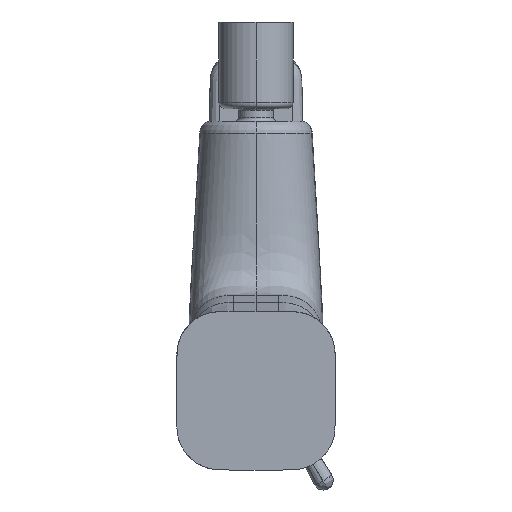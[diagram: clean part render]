
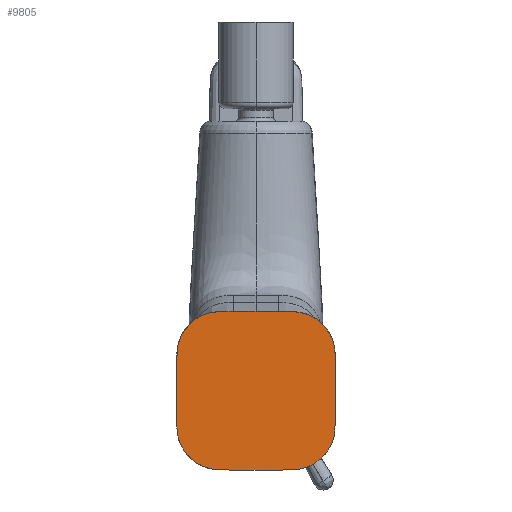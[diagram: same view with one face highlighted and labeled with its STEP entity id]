
A CAD part, front view. The second image highlights one B-rep face of the part: STEP entity #9805.
In plain terms, the highlighted planar face has unit normal (0, -1, 0).
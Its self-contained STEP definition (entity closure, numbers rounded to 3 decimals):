
#2083=CARTESIAN_POINT('',(-25.613,3.756,9.781));
#2084=CARTESIAN_POINT('',(-25.603,3.756,10.722));
#2085=CARTESIAN_POINT('',(-25.592,3.756,12.135));
#2086=CARTESIAN_POINT('',(-25.397,3.756,14.009));
#2087=CARTESIAN_POINT('',(-25.116,3.756,15.396));
#2088=CARTESIAN_POINT('',(-24.681,3.756,16.741));
#2089=CARTESIAN_POINT('',(-23.898,3.756,18.456));
#2090=CARTESIAN_POINT('',(-22.582,3.756,20.422));
#2091=CARTESIAN_POINT('',(-20.597,3.756,22.445));
#2092=CARTESIAN_POINT('',(-18.654,3.756,23.795));
#2093=CARTESIAN_POINT('',(-16.952,3.756,24.606));
#2094=CARTESIAN_POINT('',(-15.615,3.756,25.066));
#2095=CARTESIAN_POINT('',(-14.235,3.756,25.373));
#2096=CARTESIAN_POINT('',(-12.364,3.756,25.602));
#2097=CARTESIAN_POINT('',(-10.009,3.756,25.638));
#2098=CARTESIAN_POINT('',(-6.245,3.756,25.667));
#2099=CARTESIAN_POINT('',(-2.908,3.756,25.683));
#2100=CARTESIAN_POINT('',(-0.513,3.756,
25.684));
#2101=CARTESIAN_POINT('',(0.,3.756,25.684));
#2103=CARTESIAN_POINT('',(0.,3.756,25.684));
#2104=CARTESIAN_POINT('',(0.513,3.756,25.684));
#2105=CARTESIAN_POINT('',(2.908,3.756,25.683));
#2106=CARTESIAN_POINT('',(6.245,3.756,25.667));
#2107=CARTESIAN_POINT('',(10.009,3.756,25.638));
#2108=CARTESIAN_POINT('',(12.364,3.756,25.602));
#2109=CARTESIAN_POINT('',(14.235,3.756,25.373));
#2110=CARTESIAN_POINT('',(15.615,3.756,25.066));
#2111=CARTESIAN_POINT('',(16.952,3.756,24.606));
#2112=CARTESIAN_POINT('',(18.654,3.756,23.795));
#2113=CARTESIAN_POINT('',(20.597,3.756,22.445));
#2114=CARTESIAN_POINT('',(22.582,3.756,20.422));
#2115=CARTESIAN_POINT('',(23.898,3.756,18.456));
#2116=CARTESIAN_POINT('',(24.681,3.756,16.741));
#2117=CARTESIAN_POINT('',(25.116,3.756,15.396));
#2118=CARTESIAN_POINT('',(25.397,3.756,14.009));
#2119=CARTESIAN_POINT('',(25.592,3.756,12.135));
#2120=CARTESIAN_POINT('',(25.603,3.756,10.722));
#2121=CARTESIAN_POINT('',(25.613,3.756,9.781));
#2123=CARTESIAN_POINT('',(25.613,3.756,9.781));
#2124=CARTESIAN_POINT('',(25.631,3.756,7.899));
#2125=CARTESIAN_POINT('',(25.657,3.756,4.133));
#2126=CARTESIAN_POINT('',(25.665,3.756,-1.514));
#2127=CARTESIAN_POINT('',(25.645,3.756,-6.136));
#2128=CARTESIAN_POINT('',(25.621,3.756,-8.96));
#2129=CARTESIAN_POINT('',(25.607,3.756,-10.372));
#2130=CARTESIAN_POINT('',(25.593,3.756,-11.397));
#2131=CARTESIAN_POINT('',(25.525,3.756,-12.808));
#2132=CARTESIAN_POINT('',(25.357,3.756,-14.212));
#2133=CARTESIAN_POINT('',(25.05,3.756,-15.592));
#2134=CARTESIAN_POINT('',(24.587,3.756,-16.928));
#2135=CARTESIAN_POINT('',(23.77,3.756,-18.627));
#2136=CARTESIAN_POINT('',(22.42,3.756,-20.569));
#2137=CARTESIAN_POINT('',(20.402,3.756,-22.56));
#2138=CARTESIAN_POINT('',(18.435,3.756,-23.875));
#2139=CARTESIAN_POINT('',(16.717,3.756,-24.652));
#2140=CARTESIAN_POINT('',(15.371,3.756,-25.084));
#2141=CARTESIAN_POINT('',(13.985,3.756,-25.366));
#2142=CARTESIAN_POINT('',(12.58,3.756,-25.516));
#2143=CARTESIAN_POINT('',(11.404,3.756,-25.565));
#2144=CARTESIAN_POINT('',(10.463,3.756,-25.582));
#2145=CARTESIAN_POINT('',(9.992,3.756,-25.587));
#2146=CARTESIAN_POINT('',(9.757,3.756,-25.589));
#2148=CARTESIAN_POINT('',(-0.004,3.756,
975.921));
#2149=DIRECTION('',(0.,1.,0.));
#2150=DIRECTION('',(0.01,0.,-1.));
#2151=AXIS2_PLACEMENT_3D('',#2148,#2149,#2150);
#2153=CARTESIAN_POINT('',(0.004,3.756,975.921));
#2154=DIRECTION('',(0.,1.,0.));
#2155=DIRECTION('',(0.,0.,-1.));
#2156=AXIS2_PLACEMENT_3D('',#2153,#2154,#2155);
#2158=CARTESIAN_POINT('',(-9.757,3.756,
-25.589));
#2159=CARTESIAN_POINT('',(-9.992,3.756,
-25.587));
#2160=CARTESIAN_POINT('',(-10.463,3.756,
-25.582));
#2161=CARTESIAN_POINT('',(-11.404,3.756,
-25.565));
#2162=CARTESIAN_POINT('',(-12.58,3.756,
-25.516));
#2163=CARTESIAN_POINT('',(-13.985,3.756,
-25.366));
#2164=CARTESIAN_POINT('',(-15.371,3.756,
-25.084));
#2165=CARTESIAN_POINT('',(-16.717,3.756,
-24.652));
#2166=CARTESIAN_POINT('',(-18.435,3.756,
-23.875));
#2167=CARTESIAN_POINT('',(-20.402,3.756,
-22.56));
#2168=CARTESIAN_POINT('',(-22.42,3.756,
-20.569));
#2169=CARTESIAN_POINT('',(-23.77,3.756,
-18.627));
#2170=CARTESIAN_POINT('',(-24.587,3.756,
-16.928));
#2171=CARTESIAN_POINT('',(-25.05,3.756,
-15.592));
#2172=CARTESIAN_POINT('',(-25.357,3.756,
-14.212));
#2173=CARTESIAN_POINT('',(-25.525,3.756,
-12.808));
#2174=CARTESIAN_POINT('',(-25.593,3.756,
-11.397));
#2175=CARTESIAN_POINT('',(-25.607,3.756,
-10.372));
#2176=CARTESIAN_POINT('',(-25.621,3.756,
-8.96));
#2177=CARTESIAN_POINT('',(-25.645,3.756,
-6.136));
#2178=CARTESIAN_POINT('',(-25.665,3.756,
-1.514));
#2179=CARTESIAN_POINT('',(-25.657,3.756,4.133));
#2180=CARTESIAN_POINT('',(-25.631,3.756,7.899));
#2181=CARTESIAN_POINT('',(-25.613,3.756,9.781));
#6127=CARTESIAN_POINT('',(0.,3.756,
-25.637));
#6128=VERTEX_POINT('',#6127);
#6129=CARTESIAN_POINT('',(9.757,3.756,-25.589));
#6130=VERTEX_POINT('',#6129);
#6131=CARTESIAN_POINT('',(-9.757,3.756,
-25.589));
#6132=VERTEX_POINT('',#6131);
#6133=VERTEX_POINT('',#2083);
#6134=VERTEX_POINT('',#2101);
#6135=VERTEX_POINT('',#2121);
#9792=CARTESIAN_POINT('',(0.,3.756,
0.024));
#9793=DIRECTION('',(0.,1.,0.));
#9794=DIRECTION('',(0.,0.,1.));
#9795=AXIS2_PLACEMENT_3D('',#9792,#9793,#9794);
#9796=PLANE('',#9795);
#9797=ORIENTED_EDGE('',*,*,#9785,.T.);
#9798=ORIENTED_EDGE('',*,*,#9644,.T.);
#9799=ORIENTED_EDGE('',*,*,#9686,.T.);
#9800=ORIENTED_EDGE('',*,*,#9699,.T.);
#9801=ORIENTED_EDGE('',*,*,#9714,.T.);
#9802=ORIENTED_EDGE('',*,*,#9752,.T.);
#9803=EDGE_LOOP('',(#9797,#9798,#9799,#9800,#9801,#9802));
#9804=FACE_OUTER_BOUND('',#9803,.F.);
#9805=ADVANCED_FACE('',(#9804),#9796,.F.);
#2102=B_SPLINE_CURVE_WITH_KNOTS('',3,(#2083,#2084,#2085,#2086,#2087,#2088,#2089,
#2090,#2091,#2092,#2093,#2094,#2095,#2096,#2097,#2098,#2099,#2100,#2101),
.UNSPECIFIED.,.F.,.F.,(4,1,1,1,1,1,1,1,1,1,1,1,1,1,1,1,4),(0.,
0.08,0.12,0.159,0.199,
0.239,0.319,0.399,0.478,
0.518,0.558,0.598,0.638,
0.717,0.797,0.957,1.),.UNSPECIFIED.);
#2122=B_SPLINE_CURVE_WITH_KNOTS('',3,(#2103,#2104,#2105,#2106,#2107,#2108,#2109,
#2110,#2111,#2112,#2113,#2114,#2115,#2116,#2117,#2118,#2119,#2120,#2121),
.UNSPECIFIED.,.F.,.F.,(4,1,1,1,1,1,1,1,1,1,1,1,1,1,1,1,4),(0.,
0.043,0.203,0.283,0.362,
0.402,0.442,0.482,0.522,
0.601,0.681,0.761,0.801,
0.841,0.88,0.92,1.),.UNSPECIFIED.);
#2147=B_SPLINE_CURVE_WITH_KNOTS('',3,(#2123,#2124,#2125,#2126,#2127,#2128,#2129,
#2130,#2131,#2132,#2133,#2134,#2135,#2136,#2137,#2138,#2139,#2140,#2141,#2142,
#2143,#2144,#2145,#2146),.UNSPECIFIED.,.F.,.F.,(4,1,1,1,1,1,1,1,1,1,1,1,1,1,1,1,
1,1,1,1,1,4),(0.,0.125,0.25,0.375,
0.432,0.438,0.469,0.5,0.531,
0.563,0.594,0.625,0.688,0.75,0.813,0.844,
0.875,0.906,0.938,0.969,0.984,1.),
.UNSPECIFIED.);
#2152=CIRCLE('',#2151,1001.558);
#2157=CIRCLE('',#2156,1001.558);
#2182=B_SPLINE_CURVE_WITH_KNOTS('',3,(#2158,#2159,#2160,#2161,#2162,#2163,#2164,
#2165,#2166,#2167,#2168,#2169,#2170,#2171,#2172,#2173,#2174,#2175,#2176,#2177,
#2178,#2179,#2180,#2181),.UNSPECIFIED.,.F.,.F.,(4,1,1,1,1,1,1,1,1,1,1,1,1,1,1,1,
1,1,1,1,1,4),(0.,0.016,0.031,0.063,
0.094,0.125,0.156,0.188,0.25,0.313,0.375,
0.406,0.438,0.469,0.5,0.531,0.563,
0.568,0.625,0.75,0.875,1.),
.UNSPECIFIED.);
#9644=EDGE_CURVE('',#6134,#6135,#2122,.T.);
#9686=EDGE_CURVE('',#6135,#6130,#2147,.T.);
#9699=EDGE_CURVE('',#6130,#6128,#2152,.T.);
#9714=EDGE_CURVE('',#6128,#6132,#2157,.T.);
#9752=EDGE_CURVE('',#6132,#6133,#2182,.T.);
#9785=EDGE_CURVE('',#6133,#6134,#2102,.T.);
